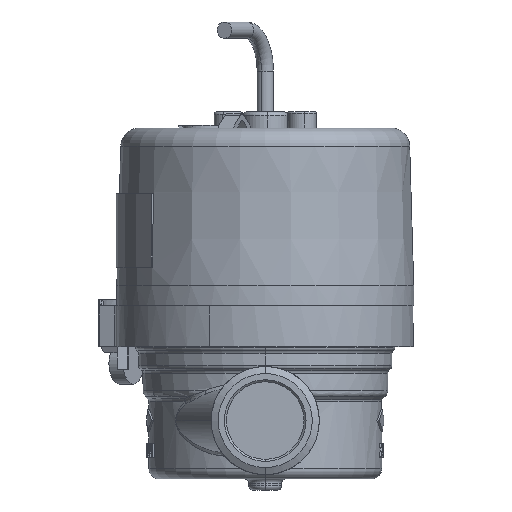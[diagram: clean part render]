
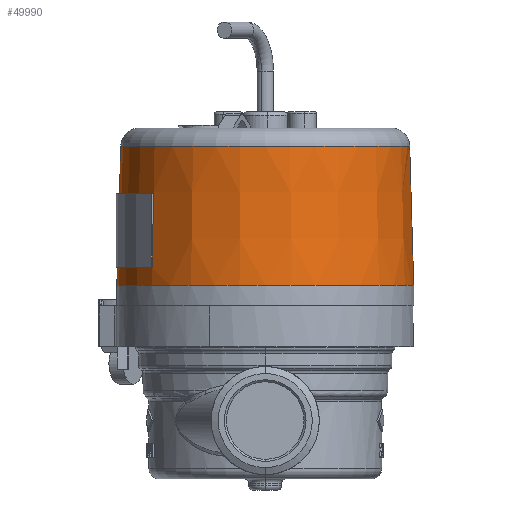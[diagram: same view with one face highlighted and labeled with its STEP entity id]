
A CAD part, left-side view. The second image highlights one B-rep face of the part: STEP entity #49990.
In plain terms, the highlighted conical face has half-angle 1.637 degrees and reference radius 36.35 mm.
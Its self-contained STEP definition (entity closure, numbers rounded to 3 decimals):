
#1611 = ORIENTED_EDGE ( 'NONE', *, *, #26761, .F. ) ;
#1776 = DIRECTION ( 'NONE',  ( 0., 0.029, -1. ) ) ;
#1814 = DIRECTION ( 'NONE',  ( 0., -0.029, -1. ) ) ;
#2224 = AXIS2_PLACEMENT_3D ( 'NONE', #17688, #37765, #56809 ) ;
#2298 = ORIENTED_EDGE ( 'NONE', *, *, #25577, .T. ) ;
#4475 = VECTOR ( 'NONE', #1776, 1000. ) ;
#5189 = VERTEX_POINT ( 'NONE', #21788 ) ;
#5685 = AXIS2_PLACEMENT_3D ( 'NONE', #46244, #50591, #13662 ) ;
#6438 = VERTEX_POINT ( 'NONE', #52336 ) ;
#8588 = DIRECTION ( 'NONE',  ( 0., 0., 1. ) ) ;
#9113 = DIRECTION ( 'NONE',  ( 0., -1., 0. ) ) ;
#9930 = DIRECTION ( 'NONE',  ( 0., 1., 0. ) ) ;
#10060 = DIRECTION ( 'NONE',  ( 0., 0.029, -1. ) ) ;
#10641 = EDGE_CURVE ( 'NONE', #31353, #37766, #50244, .T. ) ;
#10914 = LINE ( 'NONE', #44736, #4475 ) ;
#12499 = VECTOR ( 'NONE', #1814, 1000. ) ;
#13662 = DIRECTION ( 'NONE',  ( 0., -1., 0. ) ) ;
#14593 = CARTESIAN_POINT ( 'NONE',  ( 0., 35.375, 67.229 ) ) ;
#15058 = CIRCLE ( 'NONE', #50012, 35.708 ) ;
#16167 = CARTESIAN_POINT ( 'NONE',  ( 0., 0., 1304.663 ) ) ;
#17252 = ORIENTED_EDGE ( 'NONE', *, *, #30773, .T. ) ;
#17313 = CIRCLE ( 'NONE', #2224, 36.35 ) ;
#17688 = CARTESIAN_POINT ( 'NONE',  ( 0., 0., 33.121 ) ) ;
#17954 = FACE_OUTER_BOUND ( 'NONE', #49718, .T. ) ;
#18524 = AXIS2_PLACEMENT_3D ( 'NONE', #46012, #22170, #9930 ) ;
#19778 = VERTEX_POINT ( 'NONE', #24751 ) ;
#19801 = LINE ( 'NONE', #39236, #28219 ) ;
#21699 = EDGE_CURVE ( 'NONE', #6438, #37288, #17313, .T. ) ;
#21788 = CARTESIAN_POINT ( 'NONE',  ( 0., 35.708, 55.588 ) ) ;
#22170 = DIRECTION ( 'NONE',  ( 0., 0., 1. ) ) ;
#23612 = DIRECTION ( 'NONE',  ( 0., 1., 0. ) ) ;
#24751 = CARTESIAN_POINT ( 'NONE',  ( 0., -35.375, 67.229 ) ) ;
#24840 = AXIS2_PLACEMENT_3D ( 'NONE', #56143, #42039, #9113 ) ;
#25577 = EDGE_CURVE ( 'NONE', #59402, #37288, #19801, .T. ) ;
#26761 = EDGE_CURVE ( 'NONE', #59402, #37766, #45500, .T. ) ;
#27908 = ORIENTED_EDGE ( 'NONE', *, *, #54917, .F. ) ;
#28219 = VECTOR ( 'NONE', #10060, 1000. ) ;
#30029 = CARTESIAN_POINT ( 'NONE',  ( 0., -36.35, 33.121 ) ) ;
#30773 = EDGE_CURVE ( 'NONE', #48033, #5189, #10914, .T. ) ;
#31353 = VERTEX_POINT ( 'NONE', #40551 ) ;
#31783 = ORIENTED_EDGE ( 'NONE', *, *, #21699, .F. ) ;
#37288 = VERTEX_POINT ( 'NONE', #39351 ) ;
#37765 = DIRECTION ( 'NONE',  ( 0., 0., -1. ) ) ;
#37766 = VERTEX_POINT ( 'NONE', #61934 ) ;
#39236 = CARTESIAN_POINT ( 'NONE',  ( 0., 36.35, 33.121 ) ) ;
#39351 = CARTESIAN_POINT ( 'NONE',  ( 0., 36.35, 33.121 ) ) ;
#40551 = CARTESIAN_POINT ( 'NONE',  ( -22.99, 27.322, 55.588 ) ) ;
#42039 = DIRECTION ( 'NONE',  ( 0., 0., -1. ) ) ;
#44736 = CARTESIAN_POINT ( 'NONE',  ( 0., 36.35, 33.121 ) ) ;
#45500 = CIRCLE ( 'NONE', #18524, 36.222 ) ;
#46012 = CARTESIAN_POINT ( 'NONE',  ( 0., 0., 37.588 ) ) ;
#46244 = CARTESIAN_POINT ( 'NONE',  ( 0., 0., 67.229 ) ) ;
#48033 = VERTEX_POINT ( 'NONE', #14593 ) ;
#48923 = EDGE_CURVE ( 'NONE', #19778, #48033, #59694, .T. ) ;
#49718 = EDGE_LOOP ( 'NONE', ( #50507, #17252, #49845, #60441, #1611, #2298, #31783, #27908 ) ) ;
#49845 = ORIENTED_EDGE ( 'NONE', *, *, #51166, .T. ) ;
#49990 = ADVANCED_FACE ( 'NONE', ( #17954 ), #52876, .T. ) ;
#50012 = AXIS2_PLACEMENT_3D ( 'NONE', #51511, #8588, #23612 ) ;
#50244 = LINE ( 'NONE', #16167, #50835 ) ;
#50507 = ORIENTED_EDGE ( 'NONE', *, *, #48923, .T. ) ;
#50591 = DIRECTION ( 'NONE',  ( 0., 0., -1. ) ) ;
#50835 = VECTOR ( 'NONE', #59953, 1000. ) ;
#51166 = EDGE_CURVE ( 'NONE', #5189, #31353, #15058, .T. ) ;
#51511 = CARTESIAN_POINT ( 'NONE',  ( 0., 0., 55.588 ) ) ;
#52336 = CARTESIAN_POINT ( 'NONE',  ( 0., -36.35, 33.121 ) ) ;
#52714 = CARTESIAN_POINT ( 'NONE',  ( 0., 36.222, 37.588 ) ) ;
#52876 = CONICAL_SURFACE ( 'NONE', #24840, 36.35, 0.029 ) ;
#54167 = LINE ( 'NONE', #30029, #12499 ) ;
#54917 = EDGE_CURVE ( 'NONE', #19778, #6438, #54167, .T. ) ;
#56143 = CARTESIAN_POINT ( 'NONE',  ( 0., 0., 33.121 ) ) ;
#56809 = DIRECTION ( 'NONE',  ( 0., -1., 0. ) ) ;
#59402 = VERTEX_POINT ( 'NONE', #52714 ) ;
#59694 = CIRCLE ( 'NONE', #5685, 35.375 ) ;
#59953 = DIRECTION ( 'NONE',  ( -0.018, 0.022, -1. ) ) ;
#60441 = ORIENTED_EDGE ( 'NONE', *, *, #10641, .T. ) ;
#61934 = CARTESIAN_POINT ( 'NONE',  ( -23.321, 27.716, 37.588 ) ) ;
